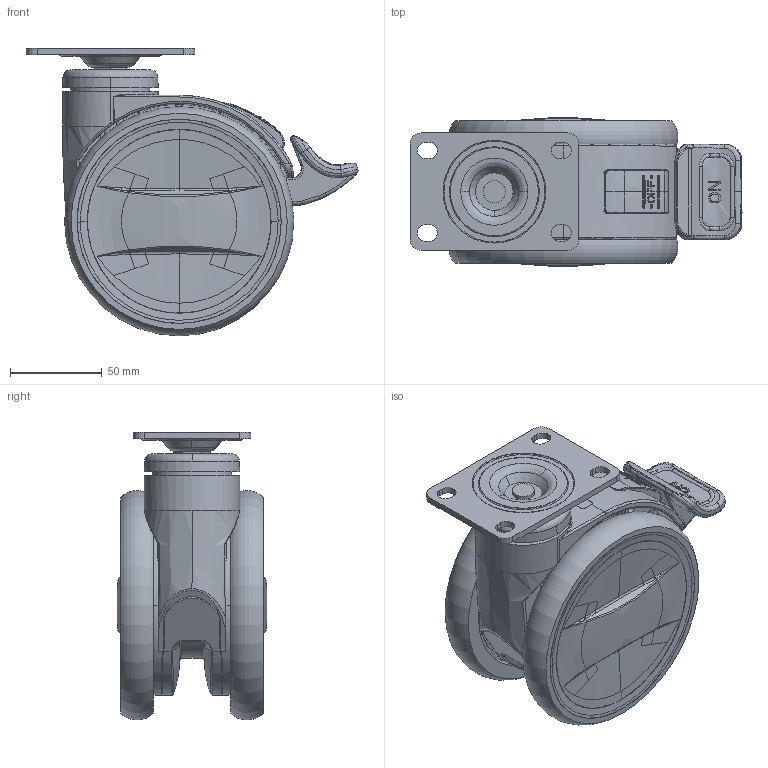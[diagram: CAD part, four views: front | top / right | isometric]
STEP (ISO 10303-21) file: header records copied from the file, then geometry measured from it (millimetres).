
FILE_DESCRIPTION(/* description */ (''),/* implementation_level */ '2;1');
FILE_NAME(/* name */ '80T06_5_F.stp',/* time_stamp */ '2022-10-17T15:57:42+08:00',/* author */ (''),/* organization */ (''),/* preprocessor_version */ 'ST-DEVELOPER v14',/* originating_system */ 'SIEMENS PLM Software NX 8.0',/* authorisation */ '');
FILE_SCHEMA (('AUTOMOTIVE_DESIGN { 1 0 10303 214 3 1 1 1 }'));
Length unit declared in the file: millimetre
Products named in the file (1): 80T06_5_F
Bounding box: 180.99 x 81.47 x 156.87 mm (x, y, z)
Volume: 584063.3 mm3; surface area: 291519 mm2
Topology: 1 solids, 29 shells, 4406 faces, 12841 edges, 8543 vertices
Faces by surface type: plane 1800, cylinder 1540, bspline 554, cone 339, torus 126, sphere 47
Full cylindrical faces by diameter (mm): 111.247 x2
Entity records: 185916 total; most frequent: CARTESIAN_POINT 77112, ORIENTED_EDGE 25612, DIRECTION 19345, EDGE_CURVE 12806, VERTEX_POINT 8540, AXIS2_PLACEMENT_3D 7037, LINE 5271, VECTOR 5271
